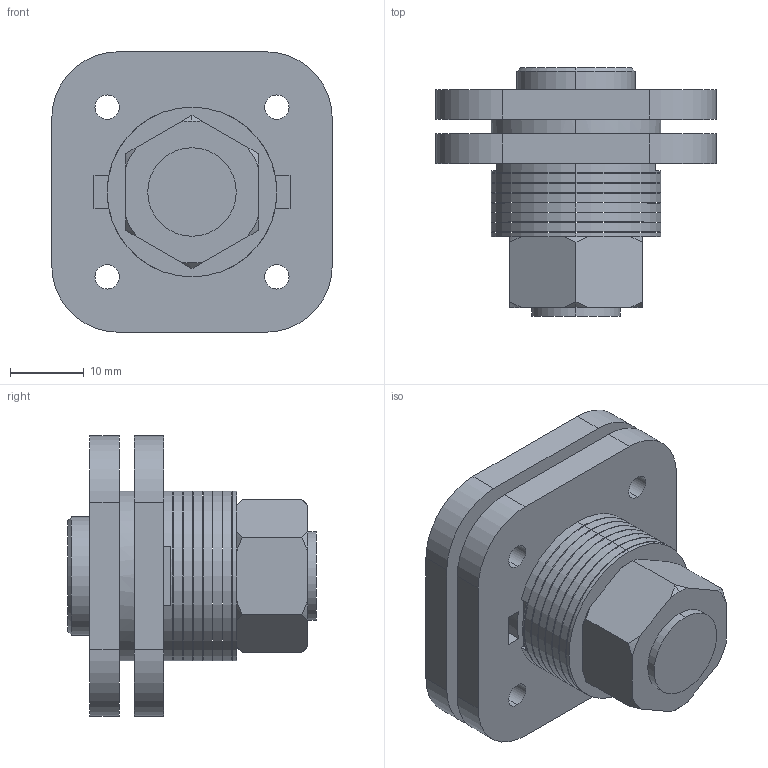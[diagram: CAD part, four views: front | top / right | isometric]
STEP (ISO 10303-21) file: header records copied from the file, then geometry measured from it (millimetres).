
FILE_DESCRIPTION (( 'STEP AP203' ), '1' );
FILE_NAME ('XG11-111.STEP', '2025-04-12T08:22:55', ( '微软用户' ), ( '微软中国' ), 'SwSTEP 2.0', 'SolidWorks 2024', '' );
FILE_SCHEMA (( 'CONFIG_CONTROL_DESIGN' ));
Length unit declared in the file: millimetre
Products named in the file (1): XG11-111
Bounding box: 38 x 33.7 x 38 mm (x, y, z)
Volume: 18604 mm3; surface area: 13558.8 mm2
Topology: 8 solids, 8 shells, 122 faces, 304 edges, 200 vertices
Faces by surface type: plane 60, cylinder 46, cone 16
Entity records: 3799 total; most frequent: CARTESIAN_POINT 699, DIRECTION 646, ORIENTED_EDGE 608, EDGE_CURVE 304, AXIS2_PLACEMENT_3D 243, VERTEX_POINT 200, VECTOR 160, LINE 160
